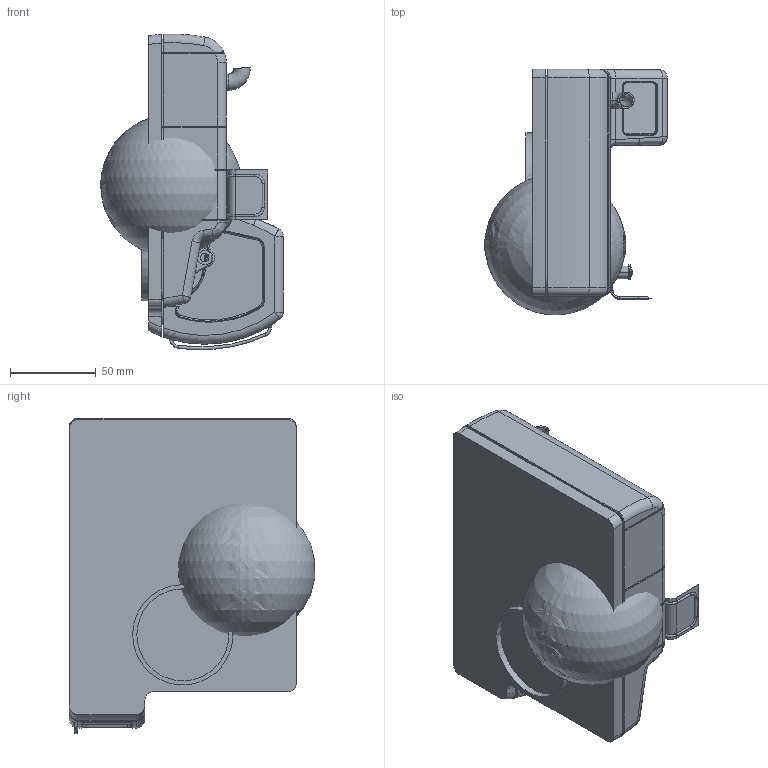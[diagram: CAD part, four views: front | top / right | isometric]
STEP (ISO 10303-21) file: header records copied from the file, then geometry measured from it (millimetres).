
FILE_DESCRIPTION((''),'2;1');
FILE_NAME('F:\Downloads\CHESHEN_FIN.stp','2012-04-15T22:22:36',('Walter'),(''),'Autodesk Inventor 2013','Autodesk Inventor 2013','');
FILE_SCHEMA(('AUTOMOTIVE_DESIGN { 1 0 10303 214 1 1 1 1 }'));
Length unit declared in the file: millimetre
Products named in the file (1): CHESHEN_FIN
Bounding box: 106.2 x 142.69 x 183.54 mm (x, y, z)
Surface area: 199812.1 mm2 (no closed solid volume)
Topology: 0 solids, 751 shells, 751 faces, 3574 edges, 3567 vertices
Faces by surface type: bspline 477, plane 186, torus 75, sphere 7, cylinder 6
Entity records: 65315 total; most frequent: CARTESIAN_POINT 36280, DIRECTION 4884, VERTEX_POINT 3557, EDGE_CURVE 3557, ORIENTED_EDGE 3557, AXIS2_PLACEMENT_3D 1686, VECTOR 1512, LINE 1512
